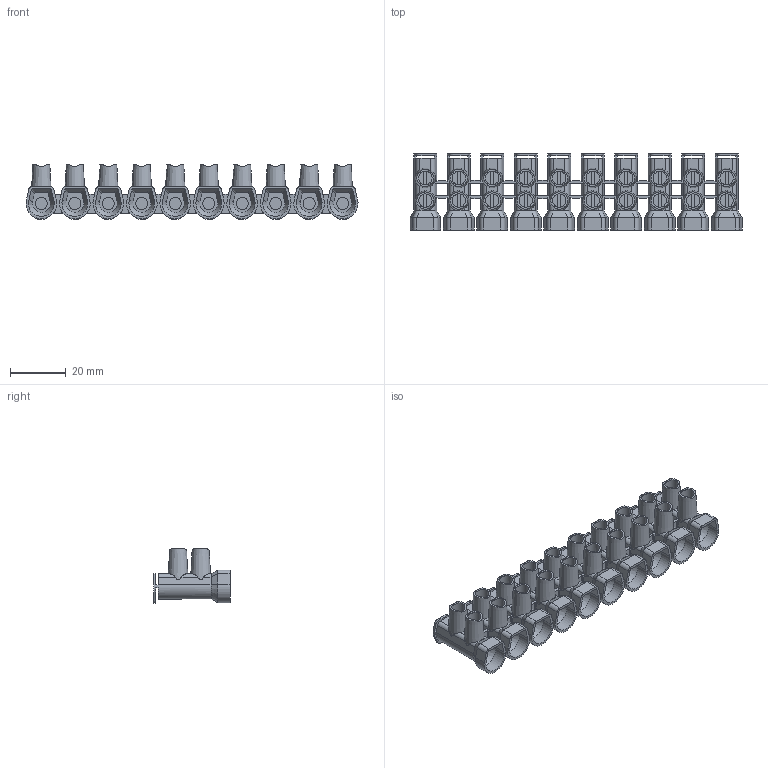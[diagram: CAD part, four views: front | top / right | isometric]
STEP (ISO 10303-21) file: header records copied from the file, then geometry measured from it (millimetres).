
FILE_DESCRIPTION(/* description */ ('Unknown'),/* implementation_level */ '2;1');
FILE_NAME(/* name */ 'MT PRO 10',/* time_stamp */ '2021-10-08T09:50:35+02:00',/* author */ ('Unknown'),/* organization */ ('Unknown'),/* preprocessor_version */ 'ST-DEVELOPER v16.7',/* originating_system */ 'Solid Edge',/* authorisation */ 'Unknown');
FILE_SCHEMA (('AUTOMOTIVE_DESIGN {1 0 10303 214 3 1 1}'));
Length unit declared in the file: millimetre
Products named in the file (1): MT PRO 10
Bounding box: 118.99 x 27.3 x 19.5 mm (x, y, z)
Volume: 15644.5 mm3; surface area: 22124.8 mm2
Topology: 1 solids, 1 shells, 1154 faces, 3254 edges, 2074 vertices
Faces by surface type: plane 774, cylinder 300, cone 40, bspline 40
Full cylindrical faces by diameter (mm): 4.3 x10, 4.8 x20
Entity records: 38018 total; most frequent: CARTESIAN_POINT 8987, ORIENTED_EDGE 6308, DIRECTION 5730, EDGE_CURVE 3154, VERTEX_POINT 2024, LINE 1972, VECTOR 1972, AXIS2_PLACEMENT_3D 1879
